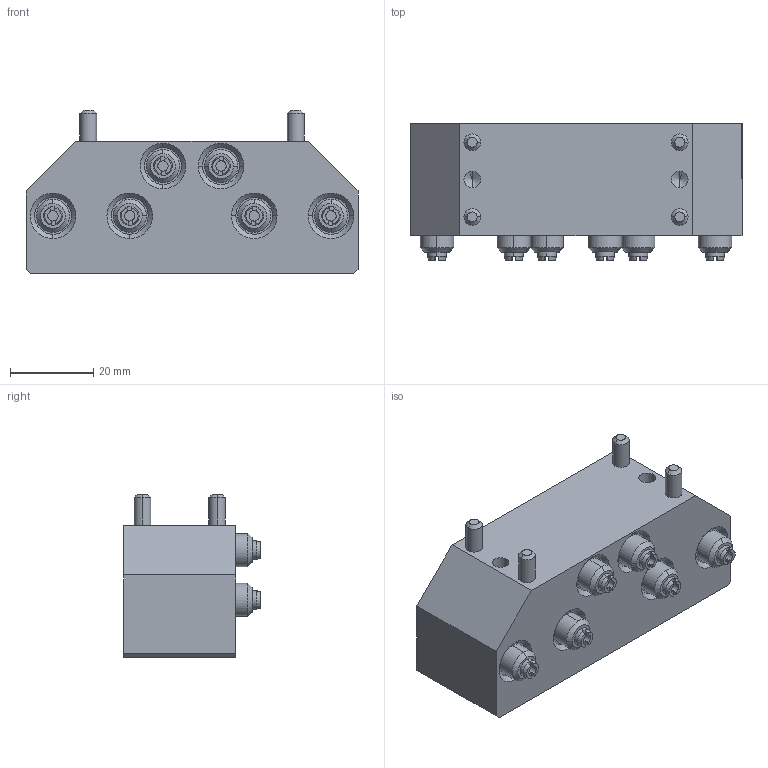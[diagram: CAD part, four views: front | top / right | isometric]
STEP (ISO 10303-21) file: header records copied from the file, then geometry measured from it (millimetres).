
FILE_DESCRIPTION (( 'STEP AP203' ), '1' );
FILE_NAME ('QCAM-06G18G-F.STEP', '2024-03-14T08:42:16', ( '微软用户' ), ( '微软中国' ), 'SwSTEP 2.0', 'SolidWorks 2018', '' );
FILE_SCHEMA (( 'CONFIG_CONTROL_DESIGN' ));
Length unit declared in the file: millimetre
Products named in the file (1): QCAM-06G18G-F
Bounding box: 80 x 32.93 x 39.5 mm (x, y, z)
Volume: 61084.9 mm3; surface area: 16111.3 mm2
Topology: 1 solids, 1 shells, 353 faces, 837 edges, 508 vertices
Faces by surface type: plane 147, cylinder 106, cone 92, bspline 8
Entity records: 12828 total; most frequent: CARTESIAN_POINT 4968, ORIENTED_EDGE 1630, DIRECTION 1547, EDGE_CURVE 815, AXIS2_PLACEMENT_3D 571, VERTEX_POINT 508, VECTOR 405, LINE 405
